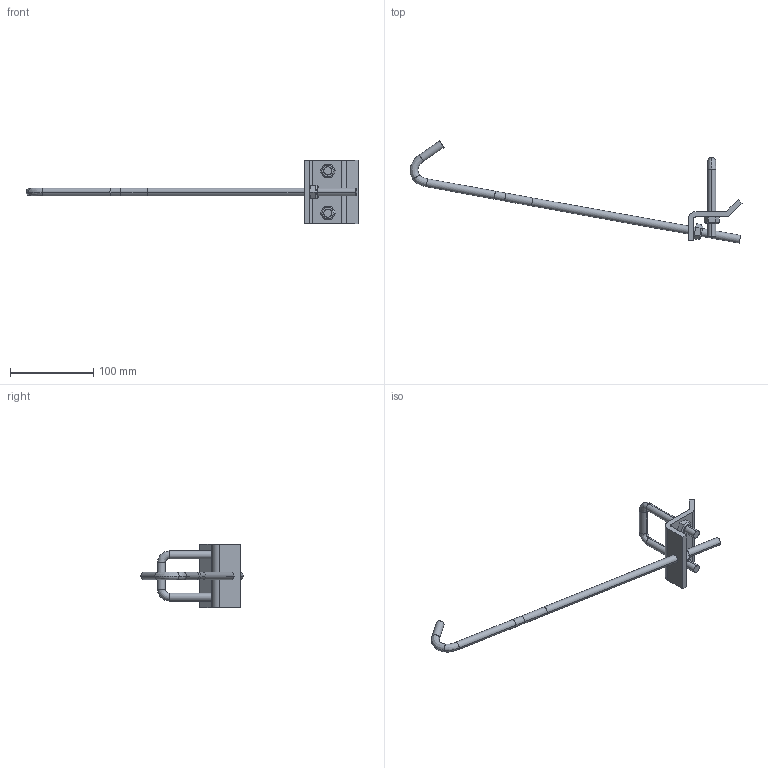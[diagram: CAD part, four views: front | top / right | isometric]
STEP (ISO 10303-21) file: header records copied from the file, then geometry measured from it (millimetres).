
FILE_DESCRIPTION(('TurboCAD Mac Pro'),'Build 980');
FILE_NAME('P2867-15.stp',' ',(''),(''),'ACIS Interop','IMSI','TurboCAD Mac Pro BY IMSI, INCORPORATED');
FILE_SCHEMA(('automotive_design'));
Length unit declared in the file: inch
Products named in the file (6): 1; 2; 3; 4; 5; 6
Bounding box: 399.58 x 123.13 x 76.2 mm (x, y, z)
Volume: 96884.1 mm3; surface area: 40009.2 mm2
Topology: 6 solids, 6 shells, 100 faces, 226 edges, 138 vertices
Faces by surface type: plane 56, bspline 24, cylinder 20
Entity records: 5660 total; most frequent: CARTESIAN_POINT 1602, ORIENTED_EDGE 452, DIRECTION 382, STYLED_ITEM 308, PRESENTATION_STYLE_ASSIGNMENT 308, COLOUR_RGB 308, EDGE_CURVE 226, CURVE_STYLE 202
